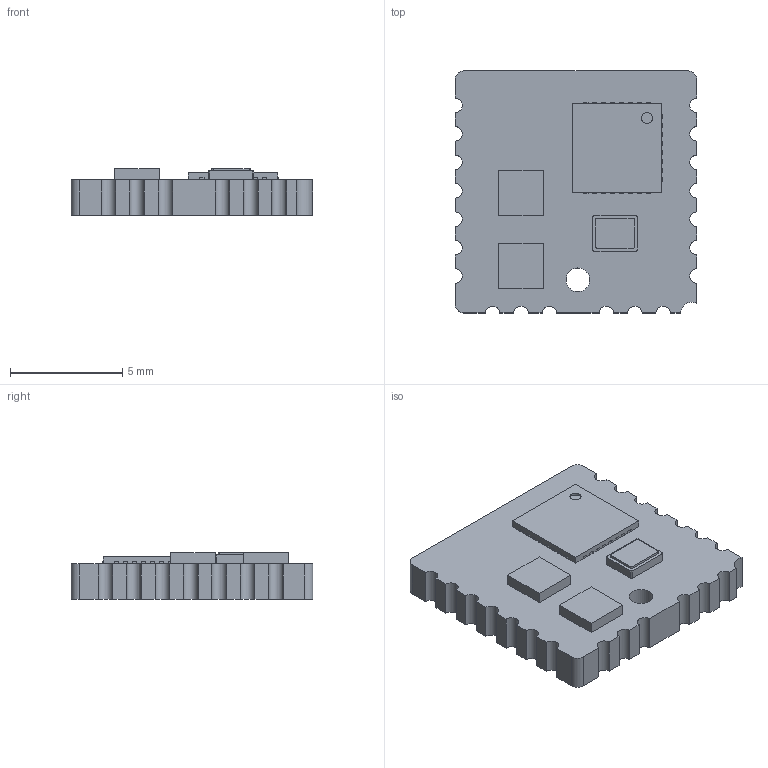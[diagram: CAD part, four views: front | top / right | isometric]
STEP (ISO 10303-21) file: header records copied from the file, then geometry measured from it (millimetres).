
FILE_DESCRIPTION(/* description */ (''),/* implementation_level */ '2;1');
FILE_NAME(/* name */ 'TITAN VH Module.step',/* time_stamp */ '2026-08-26T16:39:18-04:00',/* author */ (''),/* organization */ (''),/* preprocessor_version */ 'ST-DEVELOPER v20.1',/* originating_system */ 'Autodesk Translation Framework v15.8.0.0',/* authorisation */ '');
FILE_SCHEMA (('AUTOMOTIVE_DESIGN { 1 0 10303 214 3 1 1 }'));
Length unit declared in the file: millimetre
Products named in the file (2): TITAN VH Module STEP; VHM
Assembly tree (1 placements, depth 2):
  TITAN VH Module STEP
    VHM
Bounding box: 10.8 x 10.8 x 2.09 mm (x, y, z)
Volume: 188.9 mm3; surface area: 337.2 mm2
Topology: 1 solids, 1 shells, 412 faces, 1113 edges, 678 vertices
Faces by surface type: plane 378, cylinder 34
Full cylindrical faces by diameter (mm): 0.5 x1, 1.06 x1
Entity records: 12688 total; most frequent: ORIENTED_EDGE 2226, CARTESIAN_POINT 2206, DIRECTION 2011, EDGE_CURVE 1113, LINE 1045, VECTOR 1045, VERTEX_POINT 678, AXIS2_PLACEMENT_3D 483
